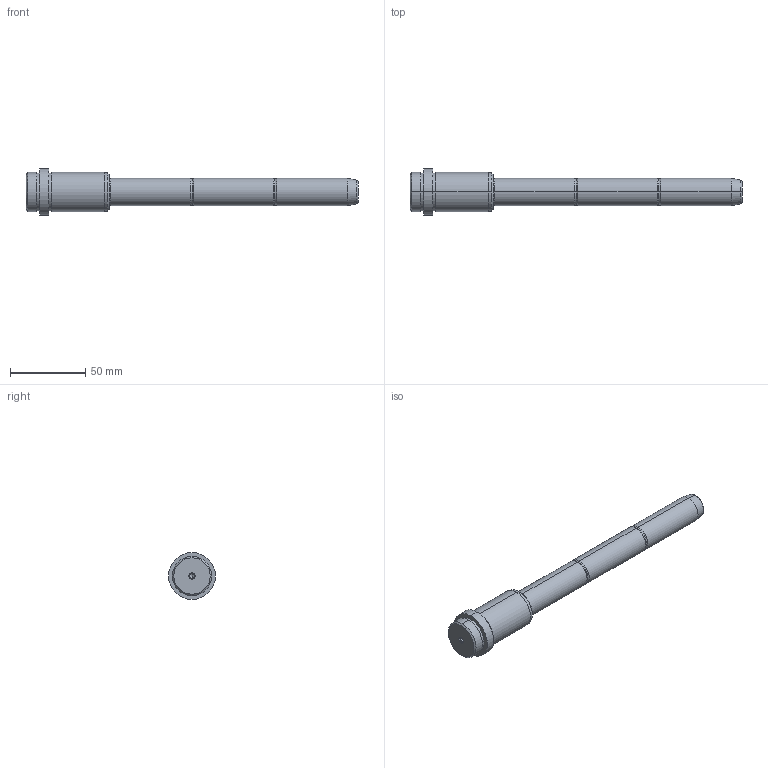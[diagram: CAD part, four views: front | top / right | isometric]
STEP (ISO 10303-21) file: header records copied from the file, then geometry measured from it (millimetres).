
FILE_DESCRIPTION( ( 'STEP AP203' ), '1' );
FILE_NAME( 'C:/Projects/D03 - 18x46x165.step', '2003-01-02T23:42:26', ( ' ' ), ( ' ' ), 'XStep 1.0', ' ', ' ' );
FILE_SCHEMA( ( 'CONFIG_CONTROL_DESIGN' ) );
Length unit declared in the file: metre
Products named in the file (1): 1
Bounding box: 220 x 31 x 31 mm (x, y, z)
Volume: 72227.1 mm3; surface area: 15424.9 mm2
Topology: 1 solids, 1 shells, 56 faces, 113 edges, 64 vertices
Faces by surface type: revolution 36, bspline 20
Entity records: 1691 total; most frequent: CARTESIAN_POINT 513, ORIENTED_EDGE 220, DIRECTION 218, EDGE_CURVE 110, AXIS2_PLACEMENT_3D 73, CIRCLE 72, EDGE_LOOP 64, VERTEX_POINT 64
